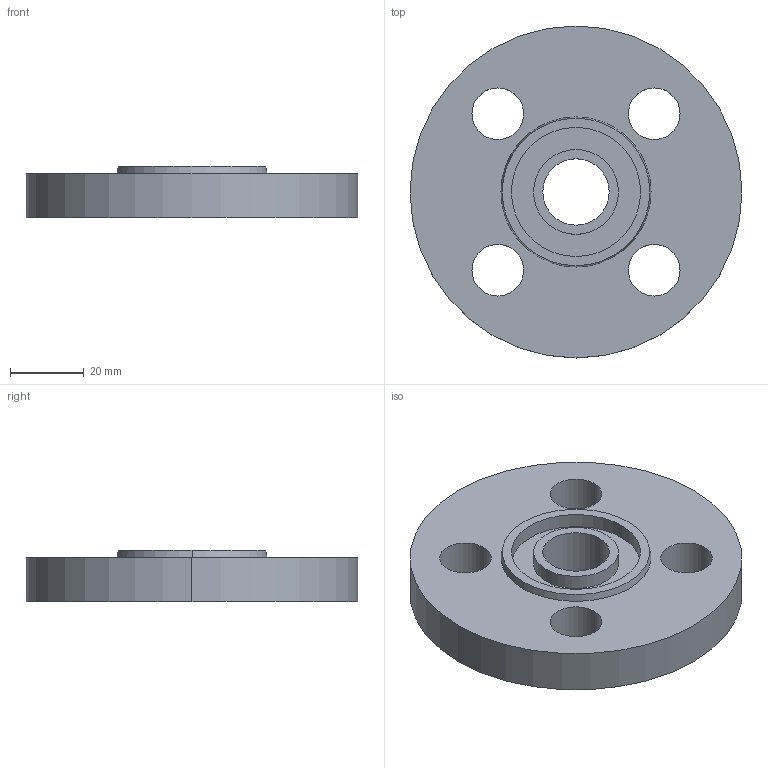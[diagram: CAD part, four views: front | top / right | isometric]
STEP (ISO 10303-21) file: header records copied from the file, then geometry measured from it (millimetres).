
FILE_DESCRIPTION (( 'STEP AP214' ), '1' );
FILE_NAME ('PN40 DN10 Type 01 - Type D Face.STEP', '2018-12-29T05:26:51', ( '' ), ( '' ), 'SwSTEP 2.0', 'SolidWorks 2019', '' );
FILE_SCHEMA (( 'AUTOMOTIVE_DESIGN' ));
Length unit declared in the file: millimetre
Products named in the file (1): PN40 DN10 Type 01 - Type D Face
Bounding box: 90 x 90 x 14 mm (x, y, z)
Volume: 65760.4 mm3; surface area: 18220.4 mm2
Topology: 1 solids, 1 shells, 23 faces, 54 edges, 36 vertices
Faces by surface type: cylinder 16, plane 5, cone 2
Entity records: 738 total; most frequent: DIRECTION 138, CARTESIAN_POINT 114, ORIENTED_EDGE 108, AXIS2_PLACEMENT_3D 60, EDGE_CURVE 54, VERTEX_POINT 36, EDGE_LOOP 36, CIRCLE 36
